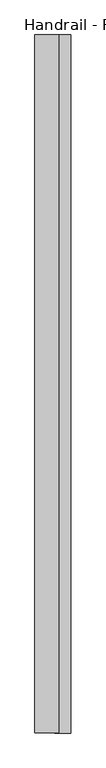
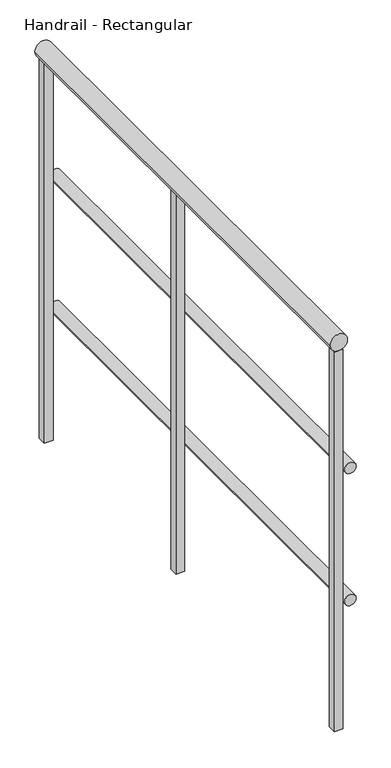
"""IFC4 building model written with IfcOpenShell, lengths in millimetres: railing geometry, Handrail - Rectangular."""

from ifc_helpers import new_model, si_unit, point, frame, frame_2d, origin, place, context, project, spatial, polyline, circle_curve, trimmed, segment, composite_curve, outline, extrude, source, transform, mapped, element, save


def handrail_rectangular_314316ab(model_context):
    return source(origin(), model_context, "Body", "SweptSolid", [
        extrude(outline(composite_curve([segment(trimmed(circle_curve(frame_2d((9740.9, -11393.4589563)), 12.7), [point((9740.9, -11380.7589563))], [point((9740.9, -11406.1589563))], False, "CARTESIAN"), True, "CONTINUOUS"), segment(trimmed(circle_curve(frame_2d((9740.9, -11393.4589563)), 12.7), [point((9740.9, -11406.1589563))], [point((9740.9, -11380.7589563))], False, "CARTESIAN"), True, "CONTINUOUS")], self_intersect=False)), frame((0.0, -35349.9683133, 0.0), z_axis=(0.0, 1.0, 0.0), x_axis=(0.0, 0.0, 1.0)), (0.0, 0.0, 1.0), 1117.6),
        extrude(outline(composite_curve([segment(trimmed(circle_curve(frame_2d((9436.1, -11393.4589563)), 12.7), [point((9436.1, -11380.7589563))], [point((9436.1, -11406.1589563))], False, "CARTESIAN"), True, "CONTINUOUS"), segment(trimmed(circle_curve(frame_2d((9436.1, -11393.4589563)), 12.7), [point((9436.1, -11406.1589563))], [point((9436.1, -11380.7589563))], False, "CARTESIAN"), True, "CONTINUOUS")], self_intersect=False)), frame((0.0, -35349.9683133, 0.0), z_axis=(0.0, 1.0, 0.0), x_axis=(0.0, 0.0, 1.0)), (0.0, 0.0, 1.0), 1117.6),
        extrude(outline(composite_curve([segment(trimmed(circle_curve(frame_2d((10039.35, -11418.8589563)), 19.05), [point((10039.35, -11399.8089563))], [point((10039.35, -11437.9089563))], False, "CARTESIAN"), True, "CONTINUOUS"), segment(trimmed(circle_curve(frame_2d((10039.35, -11418.8589563)), 19.05), [point((10039.35, -11437.9089563))], [point((10039.35, -11399.8089563))], False, "CARTESIAN"), True, "CONTINUOUS")], self_intersect=False)), frame((0.0, -35349.9683133, 0.0), z_axis=(0.0, 1.0, 0.0), x_axis=(0.0, 0.0, 1.0)), (0.0, 0.0, 1.0), 1117.6),
        extrude(outline(polyline([(-11428.3839563, -34749.8933133), (-11428.3839563, -34730.8433133), (-11409.3339563, -34730.8433133), (-11409.3339563, -34749.8933133), (-11428.3839563, -34749.8933133)])), frame((0.0, 0.0, 9144.0), z_axis=(0.0, 0.0, 1.0), x_axis=(1.0, 0.0, 0.0)), (0.0, 0.0, 1.0), 876.3),
        extrude(outline(polyline([(-11428.3839563, -34251.4183133), (-11428.3839563, -34232.3683133), (-11409.3339563, -34232.3683133), (-11409.3339563, -34251.4183133), (-11428.3839563, -34251.4183133)])), frame((0.0, 0.0, 9144.0), z_axis=(0.0, 0.0, 1.0), x_axis=(1.0, 0.0, 0.0)), (0.0, 0.0, 1.0), 876.3),
        extrude(outline(polyline([(-11428.3839563, -35349.9683133), (-11428.3839563, -35330.9183133), (-11409.3339563, -35330.9183133), (-11409.3339563, -35349.9683133), (-11428.3839563, -35349.9683133)])), frame((0.0, 0.0, 9144.0), z_axis=(0.0, 0.0, 1.0), x_axis=(1.0, 0.0, 0.0)), (0.0, 0.0, 1.0), 876.3),
    ])


if __name__ == "__main__":
    model = new_model("IFC4")
    model_context = context("Model", 3, world=origin())
    ifc_project = project(units=[si_unit("LENGTHUNIT", "METRE", prefix="MILLI")], contexts=[model_context])
    site = spatial("IfcSite", under=ifc_project)
    building = spatial("IfcBuilding", under=site)
    placement = place(None, origin())
    handrail_rectangular_shape = handrail_rectangular_314316ab(model_context)
    element("IfcRailing", 1, ObjectType="Handrail - Rectangular", at=placement, inside=building, context=model_context, shape_type="MappedRepresentation", body=[
        mapped(handrail_rectangular_shape, transform((0.0, 0.0, 0.0), x_axis=(1.0, 0.0, 0.0), y_axis=(0.0, 1.0, 0.0), z_axis=(0.0, 0.0, 1.0))),
    ])
    save(model, "model.ifc")
